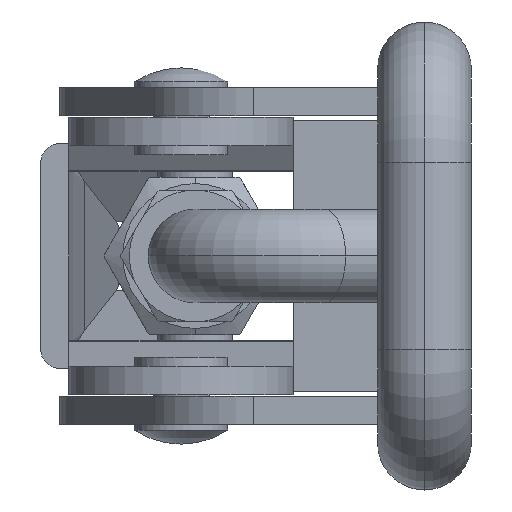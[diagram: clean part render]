
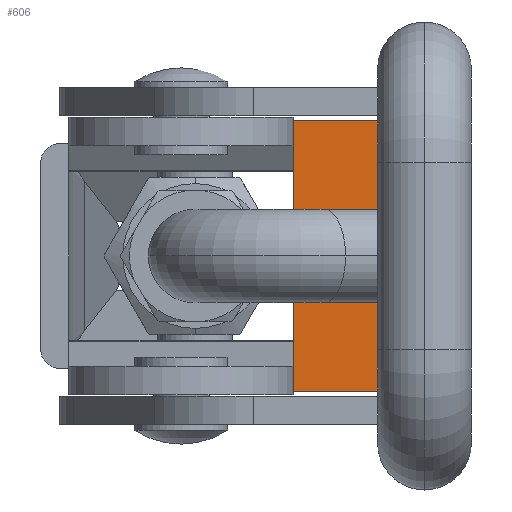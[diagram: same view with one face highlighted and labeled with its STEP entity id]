
A CAD part, left-side view. The second image highlights one B-rep face of the part: STEP entity #606.
In plain terms, the highlighted planar face has unit normal (-1, 0, 0).
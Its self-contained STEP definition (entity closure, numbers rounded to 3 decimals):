
#157 = EDGE_CURVE ( 'NONE', #7262, #1611, #2210, .T. ) ;
#209 = VERTEX_POINT ( 'NONE', #5782 ) ;
#365 = FACE_OUTER_BOUND ( 'NONE', #6025, .T. ) ;
#490 = VECTOR ( 'NONE', #3888, 1000. ) ;
#606 = ADVANCED_FACE ( 'NONE', ( #365 ), #2139, .T. ) ;
#822 = CARTESIAN_POINT ( 'NONE',  ( 0., 3.5, -14.5 ) ) ;
#978 = LINE ( 'NONE', #1854, #7097 ) ;
#1611 = VERTEX_POINT ( 'NONE', #3963 ) ;
#1798 = CARTESIAN_POINT ( 'NONE',  ( 0., 14., 14.5 ) ) ;
#1854 = CARTESIAN_POINT ( 'NONE',  ( 0., 14., -14.5 ) ) ;
#1929 = LINE ( 'NONE', #3526, #6347 ) ;
#2031 = VECTOR ( 'NONE', #4127, 1000. ) ;
#2139 = PLANE ( 'NONE',  #2179 ) ;
#2179 = AXIS2_PLACEMENT_3D ( 'NONE', #6220, #5030, #3824 ) ;
#2210 = LINE ( 'NONE', #1798, #2031 ) ;
#3469 = ORIENTED_EDGE ( 'NONE', *, *, #4413, .F. ) ;
#3526 = CARTESIAN_POINT ( 'NONE',  ( 0., 3., 14.5 ) ) ;
#3765 = LINE ( 'NONE', #4318, #490 ) ;
#3824 = DIRECTION ( 'NONE',  ( 0., -1., 0. ) ) ;
#3888 = DIRECTION ( 'NONE',  ( 0., 0., -1. ) ) ;
#3963 = CARTESIAN_POINT ( 'NONE',  ( 0., 14., 14.5 ) ) ;
#4102 = EDGE_CURVE ( 'NONE', #4534, #7262, #978, .T. ) ;
#4127 = DIRECTION ( 'NONE',  ( 0., 0., 1. ) ) ;
#4148 = CARTESIAN_POINT ( 'NONE',  ( 0., 14., -14.5 ) ) ;
#4318 = CARTESIAN_POINT ( 'NONE',  ( 0., 3.5, 14.5 ) ) ;
#4413 = EDGE_CURVE ( 'NONE', #209, #4534, #3765, .T. ) ;
#4534 = VERTEX_POINT ( 'NONE', #822 ) ;
#4873 = ORIENTED_EDGE ( 'NONE', *, *, #157, .F. ) ;
#5030 = DIRECTION ( 'NONE',  ( -1., 0., 0. ) ) ;
#5782 = CARTESIAN_POINT ( 'NONE',  ( 0., 3.5, 14.5 ) ) ;
#6025 = EDGE_LOOP ( 'NONE', ( #6619, #3469, #7046, #4873 ) ) ;
#6220 = CARTESIAN_POINT ( 'NONE',  ( 0., 0., 0. ) ) ;
#6347 = VECTOR ( 'NONE', #7001, 1000. ) ;
#6619 = ORIENTED_EDGE ( 'NONE', *, *, #4102, .F. ) ;
#6857 = EDGE_CURVE ( 'NONE', #1611, #209, #1929, .T. ) ;
#7001 = DIRECTION ( 'NONE',  ( 0., -1., 0. ) ) ;
#7046 = ORIENTED_EDGE ( 'NONE', *, *, #6857, .F. ) ;
#7097 = VECTOR ( 'NONE', #7377, 1000. ) ;
#7262 = VERTEX_POINT ( 'NONE', #4148 ) ;
#7377 = DIRECTION ( 'NONE',  ( 0., 1., 0. ) ) ;
